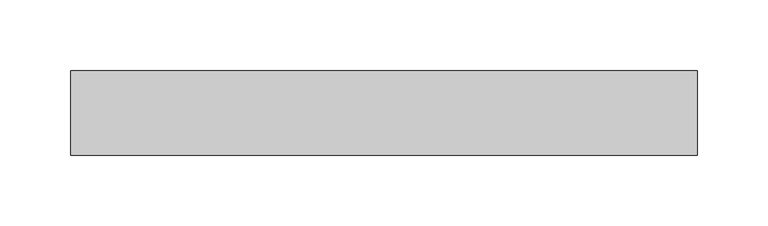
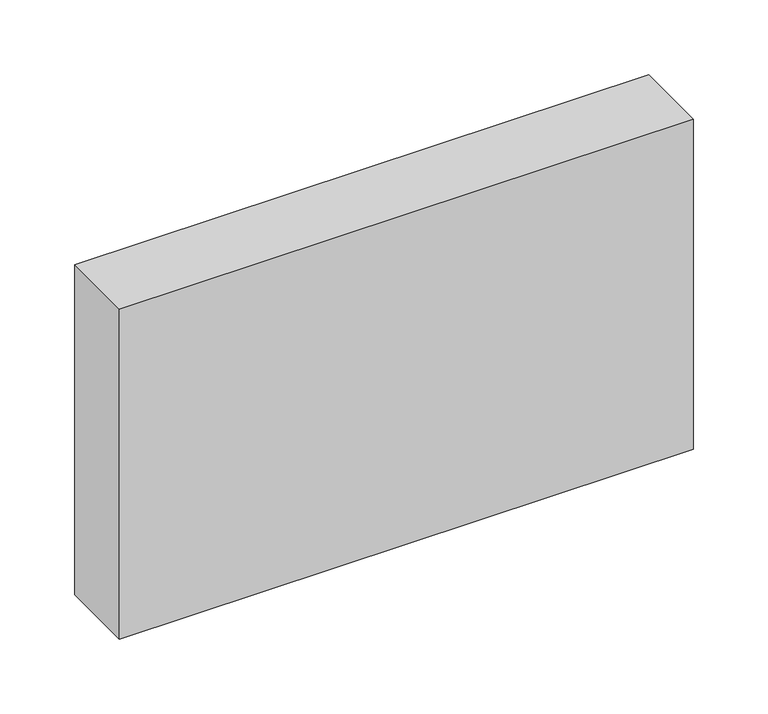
"""IFC4 building model written with IfcOpenShell, lengths in millimetres: plate geometry, Системная панель : Алюкобонд серый."""

from ifc_helpers import new_model, si_unit, origin, origin_with_axes, place, context, project, spatial, polyline, outline, extrude, source, transform, mapped, element, save


def plate_574dee86(model_context):
    return source(origin(), model_context, "Body", "SweptSolid", [
        extrude(outline(polyline([(222.0, -10.5), (-222.0, -10.5), (-222.0, 49.5), (222.0, 49.5), (222.0, -10.5)])), origin_with_axes(), (0.0, 0.0, 1.0), 270.0),
    ])


if __name__ == "__main__":
    model = new_model("IFC4")
    model_context = context("Model", 3, world=origin())
    ifc_project = project(units=[si_unit("LENGTHUNIT", "METRE", prefix="MILLI")], contexts=[model_context])
    site = spatial("IfcSite", under=ifc_project)
    building = spatial("IfcBuilding", under=site)
    placement = place(None, origin())
    plate_shape = plate_574dee86(model_context)
    element("IfcPlate", 1, ObjectType="Системная панель : Алюкобонд серый", at=placement, inside=building, context=model_context, shape_type="MappedRepresentation", body=[
        mapped(plate_shape, transform((0.0, 0.0, 0.0), x_axis=(1.0, 0.0, 0.0), y_axis=(0.0, 1.0, 0.0), z_axis=(0.0, 0.0, 1.0))),
    ])
    save(model, "model.ifc")
